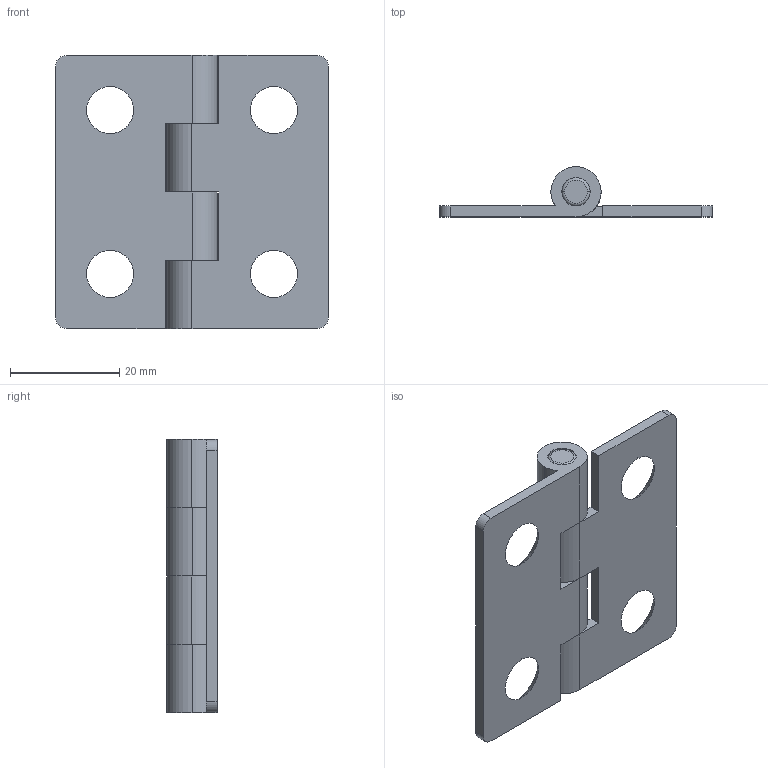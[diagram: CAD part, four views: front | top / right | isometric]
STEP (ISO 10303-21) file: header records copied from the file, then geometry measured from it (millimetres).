
FILE_DESCRIPTION (( 'STEP AP203' ), '1' );
FILE_NAME ('B27-50250.STEP', '2024-10-24T08:04:38', ( '' ), ( '' ), 'SwSTEP 2.0', 'SolidWorks 2021', '' );
FILE_SCHEMA (( 'CONFIG_CONTROL_DESIGN' ));
Length unit declared in the file: millimetre
Products named in the file (3): B27-50250-1; B27-50250; B27-50250-2
Assembly tree (3 placements, depth 2):
  B27-50250
    B27-50250-1  x2
    B27-50250-2
Bounding box: 50 x 9.2 x 50 mm (x, y, z)
Volume: 6844.4 mm3; surface area: 7701.5 mm2
Topology: 3 solids, 3 shells, 60 faces, 158 edges, 104 vertices
Faces by surface type: cylinder 26, plane 22, cone 8, torus 4
Entity records: 1395 total; most frequent: DIRECTION 210, CARTESIAN_POINT 182, ORIENTED_EDGE 172, EDGE_CURVE 86, AXIS2_PLACEMENT_3D 84, VERTEX_POINT 56, CIRCLE 44, VECTOR 42
